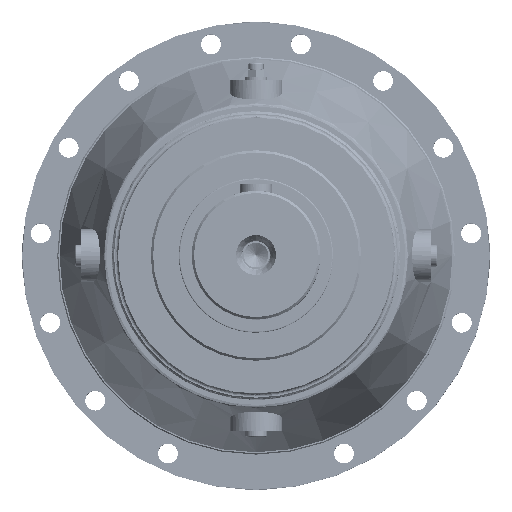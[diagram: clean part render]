
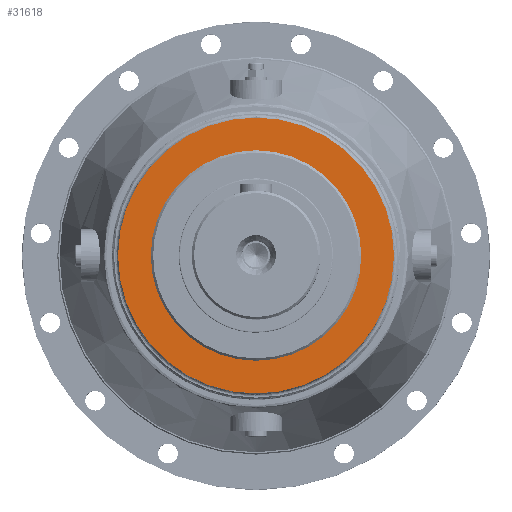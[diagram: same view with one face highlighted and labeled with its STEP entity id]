
A CAD part, top view. The second image highlights one B-rep face of the part: STEP entity #31618.
In plain terms, the highlighted planar face has unit normal (0, 0, 1).
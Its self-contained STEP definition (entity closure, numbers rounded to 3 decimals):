
#8011 = FACE_BOUND ( 'NONE', #56894, .T. ) ;
#8025 = FACE_OUTER_BOUND ( 'NONE', #57091, .T. ) ;
#31618 = ADVANCED_FACE ( 'NONE', ( #8011, #8025 ), #39298, .F. ) ;
#39298 = PLANE ( 'NONE',  #236816 ) ;
#39304 = CARTESIAN_POINT ( 'NONE',  ( 0., 118., 175. ) ) ;
#39305 = DIRECTION ( 'NONE',  ( 0., 0., -1. ) ) ;
#39308 = DIRECTION ( 'NONE',  ( 0., 1., 0. ) ) ;
#56894 = EDGE_LOOP ( 'NONE', ( #60797, #61358 ) ) ;
#57091 = EDGE_LOOP ( 'NONE', ( #60820, #60773 ) ) ;
#59439 = EDGE_CURVE ( 'NONE', #63078, #172332, #102905, .T. ) ;
#59450 = EDGE_CURVE ( 'NONE', #62999, #172346, #103043, .T. ) ;
#59469 = EDGE_CURVE ( 'NONE', #172332, #63078, #102996, .T. ) ;
#59516 = EDGE_CURVE ( 'NONE', #172346, #62999, #103095, .T. ) ;
#60773 = ORIENTED_EDGE ( 'NONE', *, *, #59439, .F. ) ;
#60797 = ORIENTED_EDGE ( 'NONE', *, *, #59516, .F. ) ;
#60820 = ORIENTED_EDGE ( 'NONE', *, *, #59469, .F. ) ;
#61358 = ORIENTED_EDGE ( 'NONE', *, *, #59450, .F. ) ;
#62999 = VERTEX_POINT ( 'NONE', #126607 ) ;
#63078 = VERTEX_POINT ( 'NONE', #126446 ) ;
#102905 = CIRCLE ( 'NONE', #138857, 118. ) ;
#102996 = CIRCLE ( 'NONE', #138855, 118. ) ;
#103043 = CIRCLE ( 'NONE', #138851, 90. ) ;
#103095 = CIRCLE ( 'NONE', #138955, 90. ) ;
#113765 = CARTESIAN_POINT ( 'NONE',  ( 0., 0., 175. ) ) ;
#113827 = DIRECTION ( 'NONE',  ( 0., 0., -1. ) ) ;
#113831 = DIRECTION ( 'NONE',  ( 0., 1., 0. ) ) ;
#114736 = CARTESIAN_POINT ( 'NONE',  ( 0., 0., 175. ) ) ;
#114739 = DIRECTION ( 'NONE',  ( 0., 1., 0. ) ) ;
#114840 = DIRECTION ( 'NONE',  ( 0., 0., -1. ) ) ;
#114844 = DIRECTION ( 'NONE',  ( 0., 1., 0. ) ) ;
#114866 = DIRECTION ( 'NONE',  ( 0., 0., 1. ) ) ;
#114892 = CARTESIAN_POINT ( 'NONE',  ( 0., 0., 175. ) ) ;
#114934 = CARTESIAN_POINT ( 'NONE',  ( 0., 0., 175. ) ) ;
#114950 = DIRECTION ( 'NONE',  ( 0., 1., 0. ) ) ;
#115007 = DIRECTION ( 'NONE',  ( 0., 0., 1. ) ) ;
#126446 = CARTESIAN_POINT ( 'NONE',  ( 0., 118., 175. ) ) ;
#126607 = CARTESIAN_POINT ( 'NONE',  ( 0., -90., 175. ) ) ;
#138851 = AXIS2_PLACEMENT_3D ( 'NONE', #114892, #114866, #114844 ) ;
#138855 = AXIS2_PLACEMENT_3D ( 'NONE', #114736, #114840, #114739 ) ;
#138857 = AXIS2_PLACEMENT_3D ( 'NONE', #113765, #113827, #113831 ) ;
#138955 = AXIS2_PLACEMENT_3D ( 'NONE', #114934, #115007, #114950 ) ;
#172332 = VERTEX_POINT ( 'NONE', #193892 ) ;
#172346 = VERTEX_POINT ( 'NONE', #193854 ) ;
#193854 = CARTESIAN_POINT ( 'NONE',  ( 0., 90., 175. ) ) ;
#193892 = CARTESIAN_POINT ( 'NONE',  ( 0., -118., 175. ) ) ;
#236816 = AXIS2_PLACEMENT_3D ( 'NONE', #39304, #39305, #39308 ) ;
